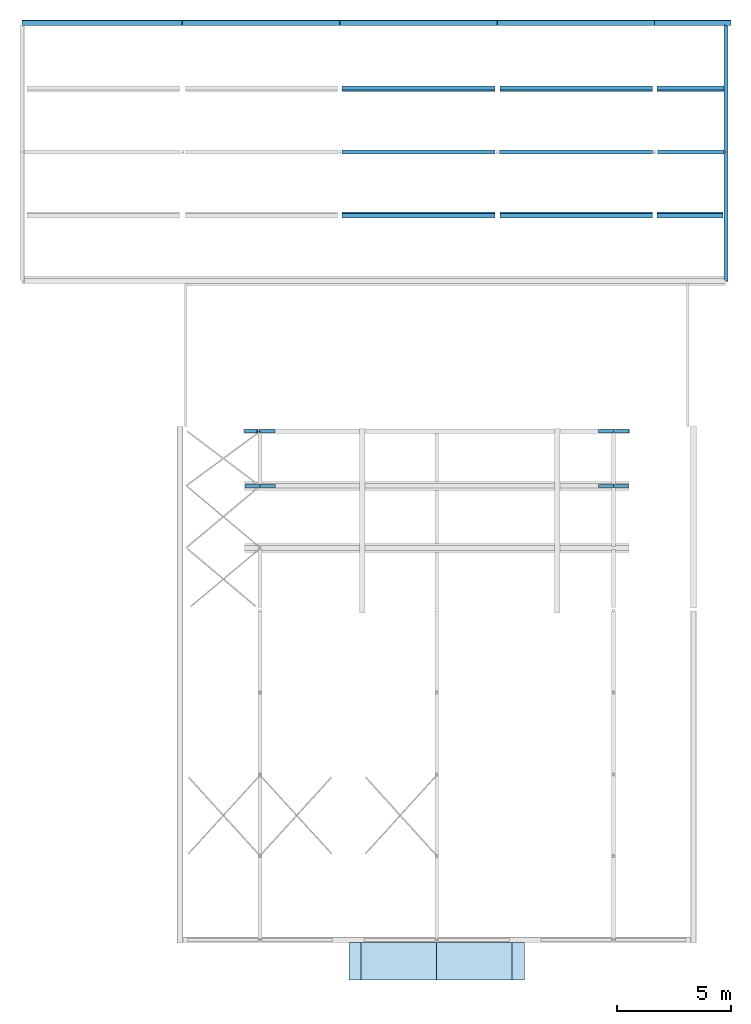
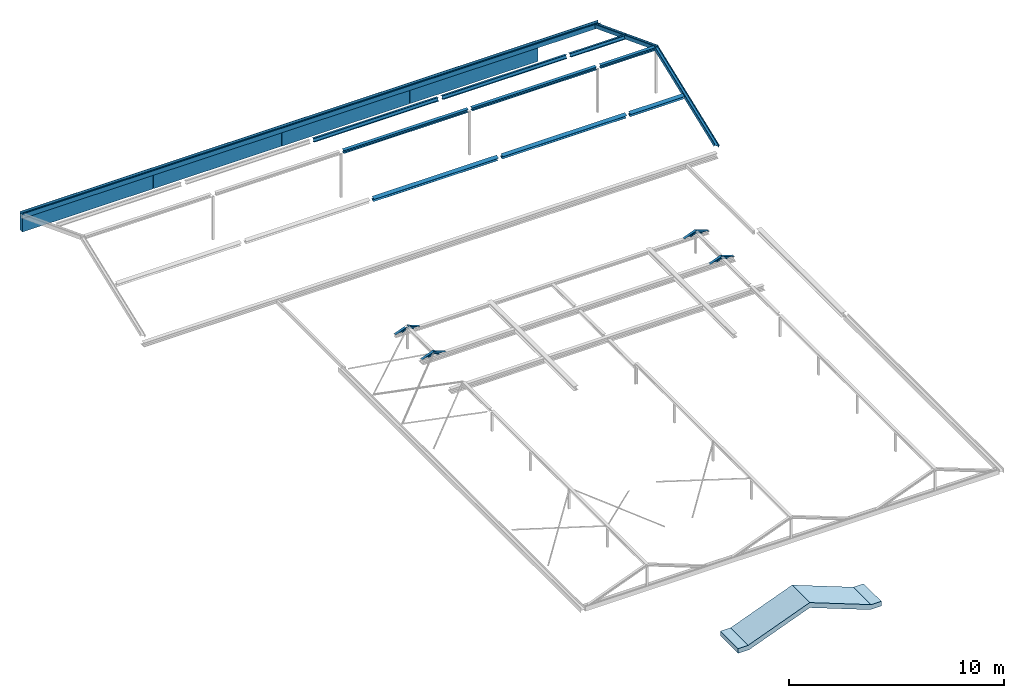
# One storey, part 7 of 10: 24 beams, 1 roof.
"""IFC2X3 building model written with IfcOpenShell, lengths in millimetres."""

from ifc_helpers import new_model, entity, si_unit, converted_unit, derived_unit, direction, frame, frame_2d, origin, place, context, subcontext, project, spatial, polyline, rectangle, i_section, outline, extrude, clip, halfspace, faceted_brep, material, layer, layer_set, type_object, element, save


model = new_model("IFC2X3")

# Units and contexts
model_context = context("Model", 3, precision=0.01, world=origin(), true_north=direction((6.123031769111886e-17, 1.0)))
body_context = subcontext(model_context, "Body", "Model", "MODEL_VIEW")
ifc_project = project(units=[si_unit("LENGTHUNIT", "METRE", prefix="MILLI"), si_unit("AREAUNIT", "SQUARE_METRE", prefix="MILLI"), si_unit("VOLUMEUNIT", "CUBIC_METRE"), converted_unit("PLANEANGLEUNIT", "DEGREE", entity("IfcPlaneAngleMeasure", 0.017453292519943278), si_unit("PLANEANGLEUNIT", "RADIAN"), dimensions=[0, 0, 0, 0, 0, 0, 0]), si_unit("MASSUNIT", "GRAM", prefix="KILO"), derived_unit("MASSDENSITYUNIT", [(si_unit("MASSUNIT", "GRAM", prefix="KILO"), 1), (si_unit("LENGTHUNIT", "METRE"), -3)]), derived_unit("IONCONCENTRATIONUNIT", [(si_unit("MASSUNIT", "GRAM", prefix="KILO"), 1), (si_unit("LENGTHUNIT", "METRE"), -3)]), derived_unit("MOMENTOFINERTIAUNIT", [(si_unit("LENGTHUNIT", "METRE"), 4)]), si_unit("TIMEUNIT", "SECOND"), si_unit("FREQUENCYUNIT", "HERTZ"), si_unit("THERMODYNAMICTEMPERATUREUNIT", "DEGREE_CELSIUS"), derived_unit("THERMALTRANSMITTANCEUNIT", [(si_unit("MASSUNIT", "GRAM", prefix="KILO"), 1), (si_unit("THERMODYNAMICTEMPERATUREUNIT", "KELVIN"), -1), (si_unit("TIMEUNIT", "SECOND"), -3)]), derived_unit("THERMALCONDUCTANCEUNIT", [(si_unit("MASSUNIT", "GRAM", prefix="KILO"), 1), (si_unit("THERMODYNAMICTEMPERATUREUNIT", "KELVIN"), -1), (si_unit("TIMEUNIT", "SECOND"), -3), (si_unit("LENGTHUNIT", "METRE"), 1)]), derived_unit("VOLUMETRICFLOWRATEUNIT", [(si_unit("LENGTHUNIT", "METRE", prefix="DECI"), 3), (si_unit("TIMEUNIT", "SECOND"), -1)]), derived_unit("MASSFLOWRATEUNIT", [(si_unit("MASSUNIT", "GRAM", prefix="KILO"), 1), (si_unit("TIMEUNIT", "SECOND"), -1)]), derived_unit("ROTATIONALFREQUENCYUNIT", [(si_unit("TIMEUNIT", "SECOND"), -1)]), si_unit("ELECTRICCURRENTUNIT", "AMPERE"), si_unit("ELECTRICVOLTAGEUNIT", "VOLT"), si_unit("POWERUNIT", "WATT"), si_unit("FORCEUNIT", "NEWTON", prefix="KILO"), si_unit("ILLUMINANCEUNIT", "LUX"), si_unit("LUMINOUSFLUXUNIT", "LUMEN"), si_unit("LUMINOUSINTENSITYUNIT", "CANDELA"), si_unit("ENERGYUNIT", "JOULE"), derived_unit("USERDEFINED", [(si_unit("MASSUNIT", "GRAM", prefix="KILO"), -1), (si_unit("LENGTHUNIT", "METRE"), -2), (si_unit("TIMEUNIT", "SECOND"), 3), (si_unit("LUMINOUSFLUXUNIT", "LUMEN"), 1)]), derived_unit("USERDEFINED", [(si_unit("MASSUNIT", "GRAM", prefix="KILO"), 1), (si_unit("TIMEUNIT", "SECOND"), -3), (si_unit("LENGTHUNIT", "METRE"), 3), (si_unit("ELECTRICCURRENTUNIT", "AMPERE"), -2)]), derived_unit("SOUNDPOWERUNIT", [(si_unit("MASSUNIT", "GRAM", prefix="KILO"), 1), (si_unit("TIMEUNIT", "SECOND"), -3), (si_unit("LENGTHUNIT", "METRE"), 2)]), derived_unit("SOUNDPRESSUREUNIT", [(si_unit("MASSUNIT", "GRAM", prefix="KILO"), 1), (si_unit("LENGTHUNIT", "METRE"), -1), (si_unit("TIMEUNIT", "SECOND"), -2)]), derived_unit("LINEARVELOCITYUNIT", [(si_unit("LENGTHUNIT", "METRE"), 1), (si_unit("TIMEUNIT", "SECOND"), -1)]), si_unit("PRESSUREUNIT", "PASCAL"), derived_unit("USERDEFINED", [(si_unit("MASSUNIT", "GRAM", prefix="KILO"), 1), (si_unit("LENGTHUNIT", "METRE"), -2), (si_unit("TIMEUNIT", "SECOND"), -2)]), derived_unit("LINEARFORCEUNIT", [(si_unit("MASSUNIT", "GRAM", prefix="KILO"), 1), (si_unit("TIMEUNIT", "SECOND"), -2)]), derived_unit("PLANARFORCEUNIT", [(si_unit("MASSUNIT", "GRAM", prefix="KILO"), 1), (si_unit("LENGTHUNIT", "METRE"), -1), (si_unit("TIMEUNIT", "SECOND"), -2)]), derived_unit("SPECIFICHEATCAPACITYUNIT", [(si_unit("THERMODYNAMICTEMPERATUREUNIT", "KELVIN"), -1), (si_unit("LENGTHUNIT", "METRE"), 2), (si_unit("TIMEUNIT", "SECOND"), -2)]), derived_unit("HEATFLUXDENSITYUNIT", [(si_unit("MASSUNIT", "GRAM", prefix="KILO"), 1), (si_unit("TIMEUNIT", "SECOND"), -3)]), derived_unit("HEATINGVALUEUNIT", [(si_unit("LENGTHUNIT", "METRE"), 2), (si_unit("TIMEUNIT", "SECOND"), -2)]), derived_unit("VAPORPERMEABILITYUNIT", [(si_unit("LENGTHUNIT", "METRE"), -1), (si_unit("TIMEUNIT", "SECOND"), 1)]), derived_unit("DYNAMICVISCOSITYUNIT", [(si_unit("MASSUNIT", "GRAM", prefix="KILO"), 1), (si_unit("TIMEUNIT", "SECOND"), -1), (si_unit("LENGTHUNIT", "METRE"), -1)]), derived_unit("THERMALEXPANSIONCOEFFICIENTUNIT", [(si_unit("THERMODYNAMICTEMPERATUREUNIT", "KELVIN"), -1)]), derived_unit("MODULUSOFELASTICITYUNIT", [(si_unit("MASSUNIT", "GRAM", prefix="KILO"), 1), (si_unit("LENGTHUNIT", "METRE"), -1), (si_unit("TIMEUNIT", "SECOND"), -2)]), derived_unit("ISOTHERMALMOISTURECAPACITYUNIT", [(si_unit("MASSUNIT", "GRAM", prefix="KILO"), -1), (si_unit("LENGTHUNIT", "METRE"), 3)]), derived_unit("MOISTUREDIFFUSIVITYUNIT", [(si_unit("TIMEUNIT", "SECOND"), -1), (si_unit("LENGTHUNIT", "METRE"), 2)]), derived_unit("MASSPERLENGTHUNIT", [(si_unit("MASSUNIT", "GRAM", prefix="KILO"), 1), (si_unit("LENGTHUNIT", "METRE"), -1)]), derived_unit("THERMALRESISTANCEUNIT", [(si_unit("MASSUNIT", "GRAM", prefix="KILO"), -1), (si_unit("TIMEUNIT", "SECOND"), 3), (si_unit("THERMODYNAMICTEMPERATUREUNIT", "KELVIN"), 1)]), derived_unit("ACCELERATIONUNIT", [(si_unit("LENGTHUNIT", "METRE"), 1), (si_unit("TIMEUNIT", "SECOND"), -2)]), derived_unit("ANGULARVELOCITYUNIT", [(si_unit("TIMEUNIT", "SECOND"), -1), (si_unit("PLANEANGLEUNIT", "RADIAN"), 1)]), derived_unit("LINEARSTIFFNESSUNIT", [(si_unit("MASSUNIT", "GRAM", prefix="KILO"), 1), (si_unit("TIMEUNIT", "SECOND"), -2)]), derived_unit("WARPINGCONSTANTUNIT", [(si_unit("LENGTHUNIT", "METRE"), 6)]), derived_unit("LINEARMOMENTUNIT", [(si_unit("MASSUNIT", "GRAM", prefix="KILO"), 1), (si_unit("LENGTHUNIT", "METRE"), 1), (si_unit("TIMEUNIT", "SECOND"), -2)]), derived_unit("TORQUEUNIT", [(si_unit("MASSUNIT", "GRAM", prefix="KILO"), 1), (si_unit("LENGTHUNIT", "METRE"), 2), (si_unit("TIMEUNIT", "SECOND"), -2)])], contexts=[model_context])

# Site, building, storey
site_placement = place(None, origin())
site = spatial("IfcSite", under=ifc_project, at=site_placement, Name="Default", CompositionType="ELEMENT")
building_placement = place(site_placement, origin())
building = spatial("IfcBuilding", under=site, at=building_placement, CompositionType="ELEMENT")
storey_placement = place(building_placement, frame((0.0, 0.0, 11700.0)))
storey = spatial("IfcBuildingStorey", under=building, at=storey_placement, Name="V4 BK metselwerk", CompositionType="ELEMENT", Elevation=11699.999999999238)

# Beams
ifc_material_1 = material(Name="Metal - Steel - S235 JRG2 (standaard)")
beam_type_1 = type_object("IfcBeamType", Name="btl_staal - HE(a-b-m):HEA200.", PredefinedType="NOTDEFINED")
beam_1_placement = place(storey_placement, frame((20524.9846540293, 34794.41510610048, 705.2000000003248), z_axis=(0.0, 0.0, 1.0), x_axis=(-1.0, 0.0, 0.0)))
element("IfcBeam", 1, at=beam_1_placement, inside=storey, type_object=beam_type_1, material=ifc_material_1, Name="btl_staal - HE(a-b-m):HEA200.", ObjectType="btl_staal - HE(a-b-m):HEA200.", context=body_context, shape_type="SweptSolid", body=[
    extrude(i_section(OverallWidth=200.00000000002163, OverallDepth=190.0, WebThickness=6.500000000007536, FlangeThickness=10.00000000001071, at=frame_2d((2.4087398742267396e-12, -2.4158453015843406e-13), x_axis=(1.0, 0.0))), frame((0.0, -33.99851249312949, -88.70795425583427), z_axis=(1.0, 0.0, 0.0), x_axis=(0.0, -0.9337679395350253, 0.3578790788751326)), (0.0, 0.0, 1.0), 6699.983872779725),
])
beam_2_placement = place(storey_placement, frame((27424.97952010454, 34794.41510610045, 705.2000000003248), z_axis=(0.0, 0.0, 1.0), x_axis=(-1.0, 0.0, 0.0)))
element("IfcBeam", 2, at=beam_2_placement, inside=storey, type_object=beam_type_1, material=ifc_material_1, Name="btl_staal - HE(a-b-m):HEA200.", ObjectType="btl_staal - HE(a-b-m):HEA200.", context=body_context, shape_type="SweptSolid", body=[
    extrude(i_section(OverallWidth=200.00000000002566, OverallDepth=190.00000000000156, WebThickness=6.500000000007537, FlangeThickness=10.00000000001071, at=frame_2d((-3.659295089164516e-12, -2.5650592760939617e-12), x_axis=(1.0, 0.0))), frame((0.0, -33.99851249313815, -88.70795425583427), z_axis=(1.0, 0.0, 0.0), x_axis=(0.0, -0.9337679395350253, 0.3578790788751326)), (0.0, 0.0, 1.0), 6674.994084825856),
])
beam_3_placement = place(storey_placement, frame((30653.72719495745, 34794.415106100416, 705.2000000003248), z_axis=(0.0, 0.0, 1.0), x_axis=(-1.0, 0.0, 0.0)))
element("IfcBeam", 3, at=beam_3_placement, inside=storey, type_object=beam_type_1, material=ifc_material_1, Name="btl_staal - HE(a-b-m):HEA200.", ObjectType="btl_staal - HE(a-b-m):HEA200.", context=body_context, shape_type="SweptSolid", body=[
    extrude(i_section(OverallWidth=200.0000000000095, OverallDepth=190.00000000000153, WebThickness=6.500000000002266, FlangeThickness=10.00000000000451, at=frame_2d((4.426681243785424e-12, 5.400124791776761e-13), x_axis=(1.0, 0.0))), frame((119.69999999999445, -33.99851249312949, -88.70795425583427), z_axis=(1.0, 0.0, 0.0), x_axis=(0.0, -0.9337679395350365, 0.3578790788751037)), (0.0, 0.0, 1.0), 2909.0476748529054),
])
beam_4_placement = place(storey_placement, frame((20524.984654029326, 40394.57320814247, 705.2000000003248), z_axis=(0.0, 0.0, 1.0), x_axis=(-1.0, 0.0, 0.0)))
element("IfcBeam", 4, at=beam_4_placement, inside=storey, type_object=beam_type_1, material=ifc_material_1, Name="btl_staal - HE(a-b-m):HEA200.", ObjectType="btl_staal - HE(a-b-m):HEA200.", context=body_context, shape_type="SweptSolid", body=[
    extrude(outline(polyline([(-100.0, -85.0), (-100.0, -95.0), (100.0, -95.0), (100.0, -85.0), (3.2500000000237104, -85.0), (3.2499999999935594, 85.0), (100.0, 85.0), (100.0, 95.0), (-100.0, 95.0), (-100.0, 85.0), (-3.250000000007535, 85.0), (-3.2499999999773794, -85.0), (-100.0, -85.0)])), frame((0.0, 33.998512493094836, -88.70795425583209), z_axis=(-1.0, 0.0, 0.0), x_axis=(0.0, -0.9337679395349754, -0.3578790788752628)), (0.0, 0.0, -1.0), 6699.983872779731),
])
beam_5_placement = place(storey_placement, frame((27424.97952010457, 40394.57320814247, 705.2000000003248), z_axis=(0.0, 0.0, 1.0), x_axis=(-1.0, 0.0, 0.0)))
element("IfcBeam", 5, at=beam_5_placement, inside=storey, type_object=beam_type_1, material=ifc_material_1, Name="btl_staal - HE(a-b-m):HEA200.", ObjectType="btl_staal - HE(a-b-m):HEA200.", context=body_context, shape_type="SweptSolid", body=[
    extrude(outline(polyline([(-100.0, -85.0), (-100.0, -95.0), (100.0, -95.0), (100.0, -85.0), (3.2500000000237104, -85.0), (3.2499999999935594, 85.0), (100.0, 85.0), (100.0, 95.0), (-100.0, 95.0), (-100.0, 85.0), (-3.250000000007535, 85.0), (-3.2499999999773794, -85.0), (-100.0, -85.0)])), frame((0.0, 33.998512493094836, -88.70795425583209), z_axis=(-1.0, 0.0, 0.0), x_axis=(0.0, -0.9337679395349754, -0.3578790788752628)), (0.0, 0.0, -1.0), 6674.994084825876),
])
beam_6_placement = place(storey_placement, frame((30653.727194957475, 40394.5732081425, 705.2000000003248), z_axis=(0.0, 0.0, 1.0), x_axis=(-1.0, 0.0, 0.0)))
element("IfcBeam", 6, at=beam_6_placement, inside=storey, type_object=beam_type_1, material=ifc_material_1, Name="btl_staal - HE(a-b-m):HEA200.", ObjectType="btl_staal - HE(a-b-m):HEA200.", context=body_context, shape_type="SweptSolid", body=[
    extrude(outline(polyline([(-100.0, -85.0), (-100.0, -95.0), (100.0, -95.0), (100.0, -85.0), (3.2500000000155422, -85.0), (3.2500000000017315, 85.0), (100.0, 85.0), (100.0, 95.0), (-100.0, 95.0), (-100.0, 85.0), (-3.2499999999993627, 85.0), (-3.249999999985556, -85.0), (-100.0, -85.0)])), frame((0.0, 33.998512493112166, -88.70795425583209), z_axis=(-1.0, 0.0, 0.0), x_axis=(0.0, -0.9337679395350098, -0.35787907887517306)), (0.0, 0.0, -1.0), 3028.74767485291),
])
beam_7_placement = place(storey_placement, frame((30753.72719495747, 37594.350107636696, 1671.1975157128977), z_axis=(0.0, 0.3578480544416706, 0.9337798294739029), x_axis=(0.0, 0.9337798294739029, -0.3578480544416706)))
element("IfcBeam", 7, at=beam_7_placement, inside=storey, type_object=beam_type_1, material=ifc_material_1, Name="btl_staal - HE(a-b-m):HEA200.", ObjectType="btl_staal - HE(a-b-m):HEA200.", context=body_context, shape_type="SweptSolid", body=[
    clip(clip(extrude(i_section(OverallWidth=200.00000000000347, OverallDepth=190.0000000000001, WebThickness=6.500000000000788, FlangeThickness=10.00000000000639, at=frame_2d((-3.0411229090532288e-12, 0.0), x_axis=(1.0, 0.0))), frame((-38.32404819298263, 95.0, 0.0), z_axis=(1.0, 0.0, 0.0), x_axis=(0.0, 0.0, -1.0)), (0.0, 0.0, 1.0), 6002.43423290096), halfspace(frame((5891.297377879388, 0.0, -6186.751242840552), z_axis=(0.9337798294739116, -0.35784805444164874, 0.0), x_axis=(0.0, 0.0, 1.0)), False)), halfspace(frame((38.32404819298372, 0.0, -100.0), z_axis=(-0.9337750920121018, 0.0, -0.3578604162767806), x_axis=(-0.3578604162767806, 0.0, 0.9337750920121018)), False)),
])
beam_8_placement = place(storey_placement, frame((30753.727194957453, 37594.350107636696, 1671.1975157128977), z_axis=(0.0, -0.3578727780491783, 0.9337703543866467), x_axis=(0.0, -0.9337703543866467, -0.3578727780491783)))
element("IfcBeam", 8, at=beam_8_placement, inside=storey, type_object=beam_type_1, material=ifc_material_1, Name="btl_staal - HE(a-b-m):HEA200.", ObjectType="btl_staal - HE(a-b-m):HEA200.", context=body_context, shape_type="SweptSolid", body=[
    clip(clip(extrude(i_section(OverallWidth=200.00000000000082, OverallDepth=190.0000000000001, WebThickness=6.499999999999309, FlangeThickness=10.00000000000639, at=frame_2d((1.7834622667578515e-12, 0.0), x_axis=(1.0, 0.0))), frame((-38.32404819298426, -95.0, 0.0), z_axis=(1.0, 0.0, 0.0), x_axis=(0.0, 0.0, -1.0)), (0.0, 0.0, 1.0), 6170.146181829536), halfspace(frame((6145.056132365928, 17.786770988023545, 6145.056132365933), z_axis=(0.8022908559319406, -0.5969333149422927, 0.0), x_axis=(0.0, 0.0, -1.0)), False)), halfspace(frame((38.324048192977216, 0.0, -100.0), z_axis=(-0.9337750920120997, 0.0, -0.35786041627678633), x_axis=(0.35786041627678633, 0.0, -0.9337750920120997)), False)),
])
beam_type_2 = type_object("IfcBeamType", Name="btl_staal - HE(a-b-m):HEA180", PredefinedType="NOTDEFINED")
beam_9_placement = place(storey_placement, frame((20524.984654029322, 37594.38570506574, 1743.8000000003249), z_axis=(0.0, 0.0, 1.0), x_axis=(-1.0, 0.0, 0.0)))
element("IfcBeam", 9, at=beam_9_placement, inside=storey, type_object=beam_type_2, material=ifc_material_1, Name="btl_staal - HE(a-b-m):HEA180", ObjectType="btl_staal - HE(a-b-m):HEA180", context=body_context, shape_type="SweptSolid", body=[
    extrude(i_section(OverallWidth=180.0000000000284, OverallDepth=170.99999999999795, WebThickness=5.9999999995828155, FlangeThickness=9.500000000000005, at=frame_2d((-2.1671553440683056e-12, -2.1671553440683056e-12), x_axis=(0.0, 1.0))), frame((0.0, 0.0, -85.50000000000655), z_axis=(1.0, 0.0, 0.0), x_axis=(0.0, 0.0, -1.0)), (0.0, 0.0, 1.0), 6699.983872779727),
])
beam_10_placement = place(storey_placement, frame((27424.979520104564, 37594.38570506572, 1743.8000000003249), z_axis=(0.0, 0.0, 1.0), x_axis=(-1.0, 0.0, 0.0)))
element("IfcBeam", 10, at=beam_10_placement, inside=storey, type_object=beam_type_2, material=ifc_material_1, Name="btl_staal - HE(a-b-m):HEA180", ObjectType="btl_staal - HE(a-b-m):HEA180", context=body_context, shape_type="SweptSolid", body=[
    extrude(i_section(OverallWidth=180.0000000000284, OverallDepth=170.99999999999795, WebThickness=5.9999999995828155, FlangeThickness=9.500000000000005, at=frame_2d((-2.1671553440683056e-12, -2.1671553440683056e-12), x_axis=(0.0, 1.0))), frame((0.0, 0.0, -85.50000000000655), z_axis=(1.0, 0.0, 0.0), x_axis=(0.0, 0.0, -1.0)), (0.0, 0.0, 1.0), 6699.9948660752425),
])
beam_11_placement = place(storey_placement, frame((30563.72719495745, 37594.38570506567, 1743.7852226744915), z_axis=(0.0, 0.0, 1.0), x_axis=(-1.0, 0.0, 0.0)))
element("IfcBeam", 11, at=beam_11_placement, inside=storey, type_object=beam_type_2, material=ifc_material_1, Name="btl_staal - HE(a-b-m):HEA180", ObjectType="btl_staal - HE(a-b-m):HEA180", context=body_context, shape_type="SweptSolid", body=[
    extrude(i_section(OverallWidth=180.00000000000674, OverallDepth=170.99999999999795, WebThickness=5.999999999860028, FlangeThickness=9.500000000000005, at=frame_2d((-2.1671553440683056e-12, -2.1671553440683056e-12), x_axis=(0.0, 1.0))), frame((0.0, 0.0, -85.50000000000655), z_axis=(1.0, 0.0, 0.0), x_axis=(0.0, 0.0, -1.0)), (0.0, 0.0, 1.0), 2913.7468936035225),
])
ifc_material_2 = material(Name="Beton, prefab")
beam_type_3 = type_object("IfcBeamType", Name="btl_prefab - RBeam:214x880", PredefinedType="NOTDEFINED")
beam_12_placement = place(storey_placement, frame((-214.0, 43251.57320506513, -512.0)))
element("IfcBeam", 12, at=beam_12_placement, inside=storey, type_object=beam_type_3, material=ifc_material_2, Name="btl_prefab - RBeam:214x880", ObjectType="btl_prefab - RBeam:214x880", context=body_context, shape_type="SweptSolid", body=[
    extrude(rectangle(XDim=879.9999999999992, YDim=214.00000000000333, at=frame_2d((1.0800249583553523e-12, 1.7330137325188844e-11), x_axis=(1.0, 0.0))), frame((0.0, 0.0, -440.0), z_axis=(1.0, 0.0, 0.0), x_axis=(0.0, 0.0, -1.0)), (0.0, 0.0, 1.0), 7029.433112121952),
])
beam_13_placement = place(storey_placement, frame((7425.432219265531, 43251.573205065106, -512.0)))
element("IfcBeam", 13, at=beam_13_placement, inside=storey, type_object=beam_type_3, material=ifc_material_2, Name="btl_prefab - RBeam:214x880", ObjectType="btl_prefab - RBeam:214x880", context=body_context, shape_type="SweptSolid", body=[
    extrude(rectangle(XDim=879.9999999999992, YDim=214.00000000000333, at=frame_2d((1.0800249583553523e-12, 1.7330137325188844e-11), x_axis=(1.0, 0.0))), frame((-590.0, 0.0, -440.0), z_axis=(1.0, 0.0, 0.0), x_axis=(0.0, 0.0, -1.0)), (0.0, 0.0, 1.0), 6880.000892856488),
])
beam_14_placement = place(storey_placement, frame((14325.432219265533, 43251.57320506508, -512.0)))
element("IfcBeam", 14, at=beam_14_placement, inside=storey, type_object=beam_type_3, material=ifc_material_2, Name="btl_prefab - RBeam:214x880", ObjectType="btl_prefab - RBeam:214x880", context=body_context, shape_type="SweptSolid", body=[
    extrude(rectangle(XDim=879.9999999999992, YDim=214.00000000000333, at=frame_2d((1.0800249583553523e-12, 1.7330137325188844e-11), x_axis=(1.0, 0.0))), frame((-590.0, 0.0, -440.0), z_axis=(1.0, 0.0, 0.0), x_axis=(0.0, 0.0, -1.0)), (0.0, 0.0, 1.0), 6879.984765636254),
])
beam_15_placement = place(storey_placement, frame((21225.4160920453, 43251.573205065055, -512.0)))
element("IfcBeam", 15, at=beam_15_placement, inside=storey, type_object=beam_type_3, material=ifc_material_2, Name="btl_prefab - RBeam:214x880", ObjectType="btl_prefab - RBeam:214x880", context=body_context, shape_type="SweptSolid", body=[
    extrude(rectangle(XDim=879.9999999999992, YDim=214.00000000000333, at=frame_2d((1.0800249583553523e-12, 1.7330137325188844e-11), x_axis=(1.0, 0.0))), frame((-590.0, 0.0, -440.0), z_axis=(1.0, 0.0, 0.0), x_axis=(0.0, 0.0, -1.0)), (0.0, 0.0, 1.0), 6879.995758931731),
])
beam_type_4 = type_object("IfcBeamType", Name="btl_staal - HE(a-b-m):HEA260", PredefinedType="NOTDEFINED")
beam_16_placement = place(storey_placement, frame((-214.0, 43376.57320506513, -484.0)))
element("IfcBeam", 16, at=beam_16_placement, inside=storey, type_object=beam_type_4, material=ifc_material_1, Name="btl_staal - HE(a-b-m):HEA260", ObjectType="btl_staal - HE(a-b-m):HEA260", context=body_context, shape_type="SweptSolid", body=[
    extrude(i_section(OverallWidth=259.9999999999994, OverallDepth=250.0000000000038, WebThickness=7.499999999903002, FlangeThickness=12.49999999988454, at=frame_2d((1.0800249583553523e-12, 4.32720526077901e-12), x_axis=(1.0, 0.0))), frame((0.0, -125.0, 0.0), z_axis=(1.0, 0.0, 0.0), x_axis=(0.0, 0.0, -1.0)), (0.0, 0.0, 1.0), 31087.727194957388),
])
beam_type_5 = type_object("IfcBeamType", Name="btl_staal - HE(a-b-m):HEA140", PredefinedType="NOTDEFINED")
beam_17_placement = place(storey_placement, frame((9574.759451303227, 22951.25362420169, 190.62877710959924), z_axis=(-0.35818409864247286, 0.0, 0.9336509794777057), x_axis=(0.9336509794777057, 0.0, 0.35818409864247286)))
element("IfcBeam", 17, at=beam_17_placement, inside=storey, type_object=beam_type_5, material=ifc_material_1, Name="btl_staal - HE(a-b-m):HEA140", ObjectType="btl_staal - HE(a-b-m):HEA140", context=body_context, shape_type="SweptSolid", body=[
    clip(clip(extrude(i_section(OverallWidth=139.9999999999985, OverallDepth=133.0000000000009, WebThickness=5.4999999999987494, FlangeThickness=8.500000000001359, at=frame_2d((-2.2168933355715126e-12, 2.1600499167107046e-12), x_axis=(0.0, 1.0))), frame((0.0, 0.0, -66.50000000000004), z_axis=(1.0, 0.0, 0.0), x_axis=(0.0, 0.0, -1.0)), (0.0, 0.0, 1.0), 697.3641839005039), halfspace(frame((0.0, 697.3641839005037, 0.0), z_axis=(-0.3581840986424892, 0.0, -0.9336509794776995), x_axis=(0.0, -1.0, 0.0)), False)), halfspace(frame((697.3641839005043, 0.0, 0.0), z_axis=(0.9336508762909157, 0.0, -0.3581843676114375), x_axis=(0.0, -1.0, 0.0)), False)),
])
beam_18_placement = place(storey_placement, frame((10225.854204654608, 22951.253624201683, 440.4135387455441), z_axis=(0.3581846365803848, 0.0, 0.9336507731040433), x_axis=(0.9336507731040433, 0.0, -0.3581846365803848)))
element("IfcBeam", 18, at=beam_18_placement, inside=storey, type_object=beam_type_5, material=ifc_material_1, Name="btl_staal - HE(a-b-m):HEA140", ObjectType="btl_staal - HE(a-b-m):HEA140", context=body_context, shape_type="SweptSolid", body=[
    clip(clip(extrude(i_section(OverallWidth=140.0000000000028, OverallDepth=132.99999999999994, WebThickness=5.499999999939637, FlangeThickness=8.50000000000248, at=frame_2d((1.0089706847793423e-12, -2.1671553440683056e-12), x_axis=(0.0, 1.0))), frame((0.0, 0.0, -66.5000000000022), z_axis=(1.0, 0.0, 0.0), x_axis=(0.0, 0.0, -1.0)), (0.0, 0.0, 1.0), 727.0371538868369), halfspace(frame((727.0371538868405, -790.0, 0.0), z_axis=(0.3581846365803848, 0.0, -0.9336507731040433), x_axis=(0.0, 1.0, 0.0)), False)), halfspace(frame((0.0, 0.0, 0.0), z_axis=(-0.933650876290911, 0.0, -0.35818436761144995), x_axis=(0.0, 1.0, 0.0)), False)),
])
beam_19_placement = place(storey_placement, frame((25072.98513877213, 22951.253624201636, 190.62877710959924), z_axis=(-0.35818409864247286, 0.0, 0.9336509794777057), x_axis=(0.9336509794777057, 0.0, 0.35818409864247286)))
element("IfcBeam", 19, at=beam_19_placement, inside=storey, type_object=beam_type_5, material=ifc_material_1, Name="btl_staal - HE(a-b-m):HEA140", ObjectType="btl_staal - HE(a-b-m):HEA140", context=body_context, shape_type="SweptSolid", body=[
    clip(clip(extrude(i_section(OverallWidth=139.9999999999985, OverallDepth=132.99999999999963, WebThickness=5.4999999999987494, FlangeThickness=8.499999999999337, at=frame_2d((-1.0160761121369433e-12, 2.1600499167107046e-12), x_axis=(0.0, 1.0))), frame((0.0, 0.0, -66.50000000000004), z_axis=(1.0, 0.0, 0.0), x_axis=(0.0, 0.0, -1.0)), (0.0, 0.0, 1.0), 697.3641839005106), halfspace(frame((0.0, 697.3641839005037, 0.0), z_axis=(-0.35818409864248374, 0.0, -0.9336509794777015), x_axis=(0.0, -1.0, 0.0)), False)), halfspace(frame((697.3641839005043, 0.0, 0.0), z_axis=(0.9336508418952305, 0.0, -0.3581844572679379), x_axis=(0.0, -1.0, 0.0)), False)),
])
beam_20_placement = place(storey_placement, frame((25724.07989212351, 22951.253624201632, 440.4135387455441), z_axis=(0.3581848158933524, 0.0, 0.9336507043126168), x_axis=(0.9336507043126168, 0.0, -0.3581848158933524)))
element("IfcBeam", 20, at=beam_20_placement, inside=storey, type_object=beam_type_5, material=ifc_material_1, Name="btl_staal - HE(a-b-m):HEA140", ObjectType="btl_staal - HE(a-b-m):HEA140", context=body_context, shape_type="SweptSolid", body=[
    clip(clip(extrude(outline(polyline([(-70.0, -58.0), (-70.0, -66.50000000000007), (70.0, -66.50000000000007), (70.0, -58.0), (2.7499999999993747, -58.0), (2.7499999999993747, 58.0), (70.0, 58.0), (70.0, 66.50000000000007), (-70.0, 66.49999999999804), (-70.0, 58.0), (-2.7499999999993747, 58.0), (-2.7499999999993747, -58.0), (-70.0, -58.0)])), frame((0.0, 0.0, -66.5000000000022), z_axis=(-1.0, 0.0, 0.0), x_axis=(0.0, 1.0, 0.0)), (0.0, 0.0, -1.0), 721.957462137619), halfspace(frame((721.9574621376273, -725.0, -1.9486281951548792), z_axis=(0.35818481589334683, 0.0, -0.9336507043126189), x_axis=(0.0, 1.0, 0.0)), False)), halfspace(frame((0.0, 0.0, 0.0), z_axis=(-0.9336508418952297, 0.0, -0.3581844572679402), x_axis=(0.0, 1.0, 0.0)), False)),
])
beam_21_placement = place(storey_placement, frame((25072.985138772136, 25344.605013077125, 190.62877710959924), z_axis=(-0.35818409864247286, 0.0, 0.9336509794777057), x_axis=(0.9336509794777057, 0.0, 0.35818409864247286)))
element("IfcBeam", 21, at=beam_21_placement, inside=storey, type_object=beam_type_5, material=ifc_material_1, Name="btl_staal - HE(a-b-m):HEA140", ObjectType="btl_staal - HE(a-b-m):HEA140", context=body_context, shape_type="SweptSolid", body=[
    clip(clip(extrude(i_section(OverallWidth=139.9999999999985, OverallDepth=132.9999999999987, WebThickness=5.4999999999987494, FlangeThickness=8.499999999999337, at=frame_2d((-1.0089706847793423e-12, -2.1600499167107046e-12), x_axis=(0.0, 1.0))), frame((0.0, 0.0, -66.50000000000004), z_axis=(1.0, 0.0, 0.0), x_axis=(0.0, 0.0, -1.0)), (0.0, 0.0, 1.0), 697.3641839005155), halfspace(frame((0.0, 697.3641839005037, 0.0), z_axis=(-0.35818409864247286, 0.0, -0.9336509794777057), x_axis=(0.0, -1.0, 0.0)), False)), halfspace(frame((697.3641839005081, 0.0, 0.0), z_axis=(0.9336508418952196, 0.0, -0.35818445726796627), x_axis=(0.0, -1.0, 0.0)), False)),
])
beam_22_placement = place(storey_placement, frame((25724.07989212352, 25344.605013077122, 440.4135387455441), z_axis=(0.3581848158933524, 0.0, 0.9336507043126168), x_axis=(0.9336507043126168, 0.0, -0.3581848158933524)))
element("IfcBeam", 22, at=beam_22_placement, inside=storey, type_object=beam_type_5, material=ifc_material_1, Name="btl_staal - HE(a-b-m):HEA140", ObjectType="btl_staal - HE(a-b-m):HEA140", context=body_context, shape_type="SweptSolid", body=[
    clip(clip(extrude(outline(polyline([(-70.0, -58.0), (-70.0, -66.49999999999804), (70.0, -66.49999999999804), (70.0, -58.0), (2.7499999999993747, -58.0), (2.7499999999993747, 58.0), (70.0, 58.0), (70.0, 66.50000000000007), (-70.0, 66.50000000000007), (-70.0, 58.0), (-2.7499999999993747, 58.0), (-2.7499999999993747, -58.0), (-70.0, -58.0)])), frame((0.0, 0.0, -66.50000000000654), z_axis=(-1.0, 0.0, 0.0), x_axis=(0.0, 1.0, 0.0)), (0.0, 0.0, -1.0), 721.9574621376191), halfspace(frame((721.9574621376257, -725.0, -1.9486281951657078), z_axis=(0.35818481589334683, 0.0, -0.9336507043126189), x_axis=(0.0, 1.0, 0.0)), False)), halfspace(frame((0.0, 0.0, 0.0), z_axis=(-0.9336508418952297, 0.0, -0.3581844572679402), x_axis=(0.0, 1.0, 0.0)), False)),
])
beam_23_placement = place(storey_placement, frame((10876.987145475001, 25344.605013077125, 190.62877710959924), z_axis=(0.35818409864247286, 0.0, 0.9336509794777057), x_axis=(-0.9336509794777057, 0.0, 0.35818409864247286)))
element("IfcBeam", 23, at=beam_23_placement, inside=storey, type_object=beam_type_5, material=ifc_material_1, Name="btl_staal - HE(a-b-m):HEA140", ObjectType="btl_staal - HE(a-b-m):HEA140", context=body_context, shape_type="SweptSolid", body=[
    clip(extrude(i_section(OverallWidth=139.9999999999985, OverallDepth=133.00000000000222, WebThickness=5.4999999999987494, FlangeThickness=8.500000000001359, at=frame_2d((-1.0160761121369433e-12, 4.32720526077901e-12), x_axis=(0.0, 1.0))), frame((0.0, 0.0, -66.50000000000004), z_axis=(1.0, 0.0, 0.0), x_axis=(0.0, 0.0, -1.0)), (0.0, 0.0, 1.0), 697.3641839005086), halfspace(frame((0.0, 697.3641839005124, 0.0), z_axis=(-0.35818409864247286, 0.0, -0.9336509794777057), x_axis=(0.0, -1.0, 0.0)), False)),
])
beam_24_placement = place(storey_placement, frame((10225.892392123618, 25344.605013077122, 440.4135387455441), z_axis=(-0.3581848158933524, 0.0, 0.9336507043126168), x_axis=(-0.9336507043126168, 0.0, -0.3581848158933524)))
element("IfcBeam", 24, at=beam_24_placement, inside=storey, type_object=beam_type_5, material=ifc_material_1, Name="btl_staal - HE(a-b-m):HEA140", ObjectType="btl_staal - HE(a-b-m):HEA140", context=body_context, shape_type="SweptSolid", body=[
    clip(extrude(outline(polyline([(-70.0, -58.0), (-70.0, -66.50000000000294), (70.0, -66.49999999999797), (70.0, -58.0), (2.7500000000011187, -58.0), (2.7499999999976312, 58.0), (70.0, 58.0), (70.0, 66.50000000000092), (-70.0, 66.49999999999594), (-70.0, 58.0), (-2.749999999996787, 58.0), (-2.7499999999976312, -58.0), (-70.0, -58.0)])), frame((135.01158164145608, 0.0, -66.50000000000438), z_axis=(-1.0, 0.0, 0.0), x_axis=(0.0, 1.0, 0.0)), (0.0, 0.0, -1.0), 586.9458804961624), halfspace(frame((721.9574621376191, -725.0, -1.9486281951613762), z_axis=(0.35818481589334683, 0.0, -0.9336507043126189), x_axis=(0.0, 1.0, 0.0)), False)),
])

# Roof
ifc_material_3 = material(Name="Wood - DAK plaatmateriaal buitenzijde")
ifc_layer_1 = layer(ifc_material_3, 20.0)
ifc_material_4 = material(Name="Wood - DAK kern")
ifc_layer_2 = layer(ifc_material_4, 180.0)
ifc_material_5 = material(Name="Wood - DAK plaatmateriaal binnenzijde")
ifc_layer_3 = layer(ifc_material_5, 70.0)
ifc_layer_set = layer_set([ifc_layer_1, ifc_layer_2, ifc_layer_3], Name="Basic Roof:bt_kapconstructie d=467")
type_product = type_object("IfcTypeProduct", Name="Basic Roof:bt_kapconstructie d=467")
roof_placement = place(storey_placement, frame((14117.994921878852, 1287.605013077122, -4988.04929646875)))
element("IfcRoof", 25, at=roof_placement, inside=storey, type_object=type_product, material=ifc_layer_set, Name="Basic Roof:bt_kapconstructie d=467", ObjectType="Basic Roof:bt_kapconstructie d=467", ShapeType="NOTDEFINED", context=body_context, shape_type="Brep", body=[
    faceted_brep([(0.0, 0.0, 270.0), (0.0, 0.0, 0.0), (585.1233460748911, 0.0, 0.0), (3849.697701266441, 0.0, 1252.8852083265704), (7099.272259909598, 0.0, 0.09910789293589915), (7699.8497622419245, 0.0, 0.09910789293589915), (7699.8497622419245, 0.0, 270.09910789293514), (7149.515633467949, 0.0, 270.09910789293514), (3849.9170687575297, 0.0, 1542.1706188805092), (535.091775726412, 0.0, 270.0), (0.0, 1642.8802560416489, 270.0), (535.0917757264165, 1642.8802560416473, 270.0), (3849.9170687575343, 1642.8802560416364, 1542.1706188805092), (7149.515633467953, 1642.8802560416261, 270.09910789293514), (7699.849762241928, 1642.8802560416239, 270.09910789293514), (7699.849762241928, 1642.8802560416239, 0.09910789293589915), (7099.272259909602, 1642.8802560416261, 0.09910789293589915), (3849.697701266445, 1642.8802560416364, 1252.8852083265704), (585.1233460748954, 1642.8802560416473, 0.0), (0.0, 1642.8802560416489, 0.0)], [[[0, 1, 2, 3, 4, 5, 6, 7, 8, 9]], [[10, 11, 12, 13, 14, 15, 16, 17, 18, 19]], [[11, 10, 0, 9]], [[12, 11, 9, 8]], [[13, 12, 8, 7]], [[14, 13, 7, 6]], [[15, 14, 6, 5]], [[16, 15, 5, 4]], [[17, 16, 4, 3]], [[18, 17, 3, 2]], [[19, 18, 2, 1]], [[10, 19, 1, 0]]]),
])

save(model, "model.ifc")
